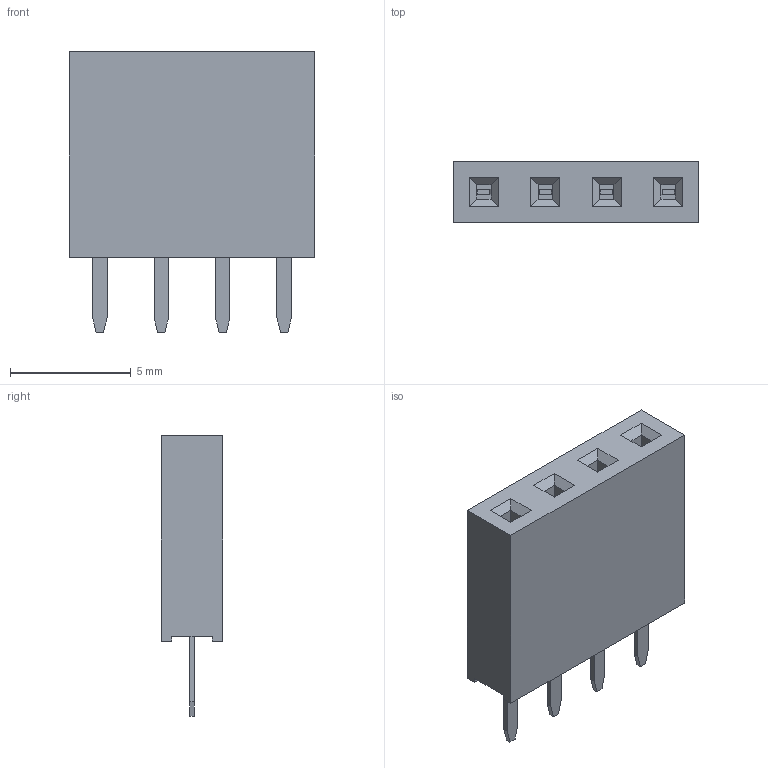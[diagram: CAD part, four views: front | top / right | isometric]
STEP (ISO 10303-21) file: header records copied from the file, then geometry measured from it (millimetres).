
FILE_DESCRIPTION(/* description */ ('STEP AP242 Edition 2','CAx-IF Rec.Pracs.---Representation and Presentation of Product Manufacturing Information (PMI)---4.0---2014-10-13','CAx-IF Rec.Pracs.---3D Tessellated Geometry---0.4---2014-09-14','2;1','CAx-IF Rec.Pracs.---User Defined Attributes---1.5---2016-08-15'),/* implementation_level */ '2;1');
FILE_NAME(/* name */ 'HIRO posing assembly - PinSocket_1x04_P2.54mm_Vertical',/* time_stamp */ '2026-11-04T05:15:22Z',/* author */ (''),/* organization */ (''),/* preprocessor_version */ 'ST-DEVELOPER v20',/* originating_system */ 'ONSHAPE BY PTC INC, 1.223',/* authorisation */ ' ');
FILE_SCHEMA (('AP242_MANAGED_MODEL_BASED_3D_ENGINEERING_MIM_LF { 1 0 10303 442 3 1 4 }'));
Length unit declared in the file: metre
Products named in the file (1): PinSocket_1x04_P2.54mm_Vertical
Bounding box: 10.16 x 2.54 x 11.6 mm (x, y, z)
Volume: 206.6 mm3; surface area: 368.9 mm2
Topology: 1 solids, 1 shells, 106 faces, 272 edges, 176 vertices
Faces by surface type: plane 106
Entity records: 3494 total; most frequent: CARTESIAN_POINT 555, ORIENTED_EDGE 544, DIRECTION 486, EDGE_CURVE 272, LINE 272, VECTOR 272, VERTEX_POINT 176, EDGE_LOOP 114
